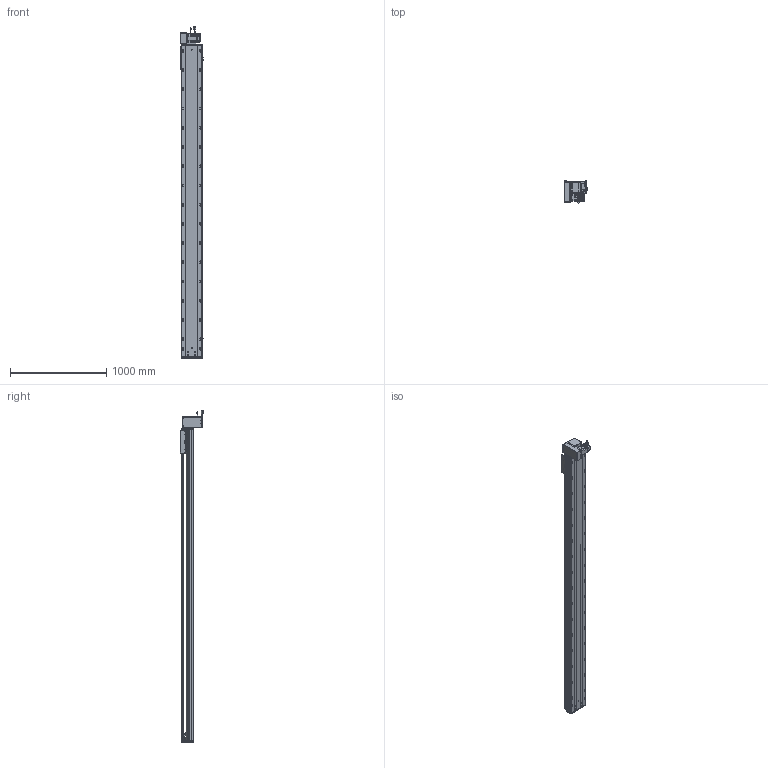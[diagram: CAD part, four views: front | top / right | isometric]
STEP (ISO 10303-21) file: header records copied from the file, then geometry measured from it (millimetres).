
FILE_DESCRIPTION (( 'STEP AP203' ), '1' );
FILE_NAME ('RY220-T-300-DL.SLDASM_2900.step', '2022-07-25T07:55:21', ( '' ), ( '' ), 'SwSTEP 2.0', 'SolidWorks 2016', '' );
FILE_SCHEMA (( 'CONFIG_CONTROL_DESIGN' ));
Length unit declared in the file: millimetre
Products named in the file (14): 110A-T-肮祭謫釱傷裔; RY220圉猾敕々湍臏賑輸; RY220-T菁釱-300_2900; RY220-T-湍謫欶(鍼踢); RY220-俋离672覜茼んえ; RY220-T-300-奻裔啣_2900; RY220-同步轮副支撑座6304×2; RY220翋肮祭謫裔啣; RY220-T-300-DL.SLDASM_2900; 滅袉蝶18-15; RY220翋肮祭謫釱; 覜茼ん672; RY220-T-蛌殏萇儂假蚾啣(750W); 怢湛750W_ECMA-CX0807ES
Assembly tree (18 placements, depth 2):
  RY220-T-300-DL.SLDASM_2900
    RY220-T菁釱-300_2900
    RY220翋肮祭謫釱
    覜茼ん672  x3
    RY220圉猾敕々湍臏賑輸
    RY220-T-300-奻裔啣_2900
    RY220-俋离672覜茼んえ
    滅袉蝶18-15  x3
    RY220翋肮祭謫裔啣  x2
    110A-T-肮祭謫釱傷裔
    怢湛750W_ECMA-CX0807ES
    RY220-T-湍謫欶(鍼踢)
    RY220-T-蛌殏萇儂假蚾啣(750W)
    RY220-同步轮副支撑座6304×2
Bounding box: 239.7 x 240.74 x 3453.27 mm (x, y, z)
Volume: 24554763 mm3; surface area: 7588382.2 mm2
Topology: 19 solids, 19 shells, 3012 faces, 8335 edges, 5220 vertices
Faces by surface type: cylinder 1488, plane 1069, cone 373, bspline 56, sphere 16, torus 10
Entity records: 100515 total; most frequent: CARTESIAN_POINT 28367, ORIENTED_EDGE 14906, DIRECTION 14396, EDGE_CURVE 7453, AXIS2_PLACEMENT_3D 5198, VERTEX_POINT 4844, VECTOR 4000, LINE 4000
